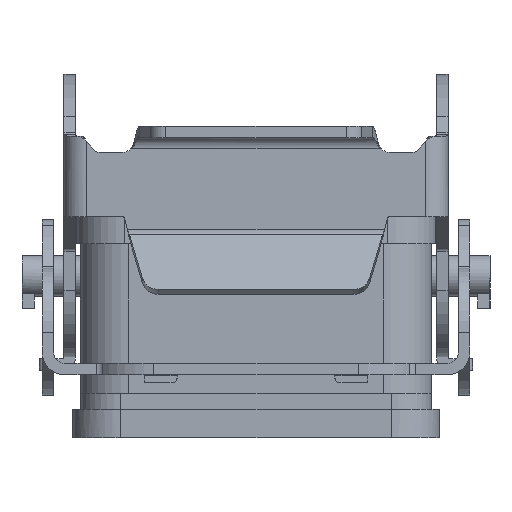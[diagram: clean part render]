
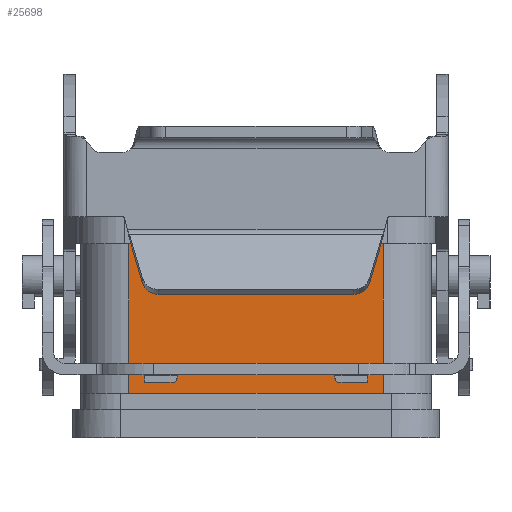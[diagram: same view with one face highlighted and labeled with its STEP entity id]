
A CAD part, left-side view. The second image highlights one B-rep face of the part: STEP entity #25698.
In plain terms, the highlighted planar face has unit normal (-1, 0, 0).
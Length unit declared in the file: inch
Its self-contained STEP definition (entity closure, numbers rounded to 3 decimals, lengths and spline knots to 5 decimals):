
#822 = DIRECTION ( 'NONE',  ( 0., 1., 0. ) ) ;
#2246 = VECTOR ( 'NONE', #822, 39.37008 ) ;
#2256 = ORIENTED_EDGE ( 'NONE', *, *, #28788, .T. ) ;
#3547 = VECTOR ( 'NONE', #33564, 39.37008 ) ;
#5602 = CARTESIAN_POINT ( 'NONE',  ( -2.80512, 0.62008, -0.57087 ) ) ;
#7291 = ORIENTED_EDGE ( 'NONE', *, *, #13068, .F. ) ;
#8776 = CARTESIAN_POINT ( 'NONE',  ( -2.80512, -0.62008, -0.72835 ) ) ;
#9923 = FACE_OUTER_BOUND ( 'NONE', #18755, .T. ) ;
#10346 = ORIENTED_EDGE ( 'NONE', *, *, #19023, .F. ) ;
#10512 = CARTESIAN_POINT ( 'NONE',  ( -2.80512, 0., 0.15748 ) ) ;
#10808 = PLANE ( 'NONE',  #11250 ) ;
#10925 = DIRECTION ( 'NONE',  ( -1., 0., 0. ) ) ;
#11250 = AXIS2_PLACEMENT_3D ( 'NONE', #28186, #10925, #31081 ) ;
#12023 = CARTESIAN_POINT ( 'NONE',  ( -2.80512, 0.62008, 0.15748 ) ) ;
#12127 = LINE ( 'NONE', #10512, #3547 ) ;
#13068 = EDGE_CURVE ( 'NONE', #19259, #18781, #15256, .T. ) ;
#14878 = CARTESIAN_POINT ( 'NONE',  ( -2.80512, -0.62008, 0.15748 ) ) ;
#15256 = LINE ( 'NONE', #8776, #21994 ) ;
#17333 = CARTESIAN_POINT ( 'NONE',  ( -2.80512, 0.62008, -0.72835 ) ) ;
#17536 = VERTEX_POINT ( 'NONE', #5602 ) ;
#17586 = LINE ( 'NONE', #18094, #2246 ) ;
#18094 = CARTESIAN_POINT ( 'NONE',  ( -2.80512, 0., -0.57087 ) ) ;
#18755 = EDGE_LOOP ( 'NONE', ( #10346, #2256, #26395, #7291 ) ) ;
#18781 = VERTEX_POINT ( 'NONE', #19935 ) ;
#19023 = EDGE_CURVE ( 'NONE', #36717, #19259, #12127, .T. ) ;
#19259 = VERTEX_POINT ( 'NONE', #14878 ) ;
#19935 = CARTESIAN_POINT ( 'NONE',  ( -2.80512, -0.62008, -0.57087 ) ) ;
#21994 = VECTOR ( 'NONE', #26022, 39.37008 ) ;
#23141 = LINE ( 'NONE', #17333, #30830 ) ;
#25698 = ADVANCED_FACE ( 'NONE', ( #9923 ), #10808, .T. ) ;
#26022 = DIRECTION ( 'NONE',  ( 0., 0., -1. ) ) ;
#26395 = ORIENTED_EDGE ( 'NONE', *, *, #33542, .F. ) ;
#28186 = CARTESIAN_POINT ( 'NONE',  ( -2.80512, -0.62008, -0.72835 ) ) ;
#28788 = EDGE_CURVE ( 'NONE', #36717, #17536, #23141, .T. ) ;
#30830 = VECTOR ( 'NONE', #34624, 39.37008 ) ;
#31081 = DIRECTION ( 'NONE',  ( 0., 0., 1. ) ) ;
#33542 = EDGE_CURVE ( 'NONE', #18781, #17536, #17586, .T. ) ;
#33564 = DIRECTION ( 'NONE',  ( 0., -1., 0. ) ) ;
#34624 = DIRECTION ( 'NONE',  ( 0., 0., -1. ) ) ;
#36717 = VERTEX_POINT ( 'NONE', #12023 ) ;
